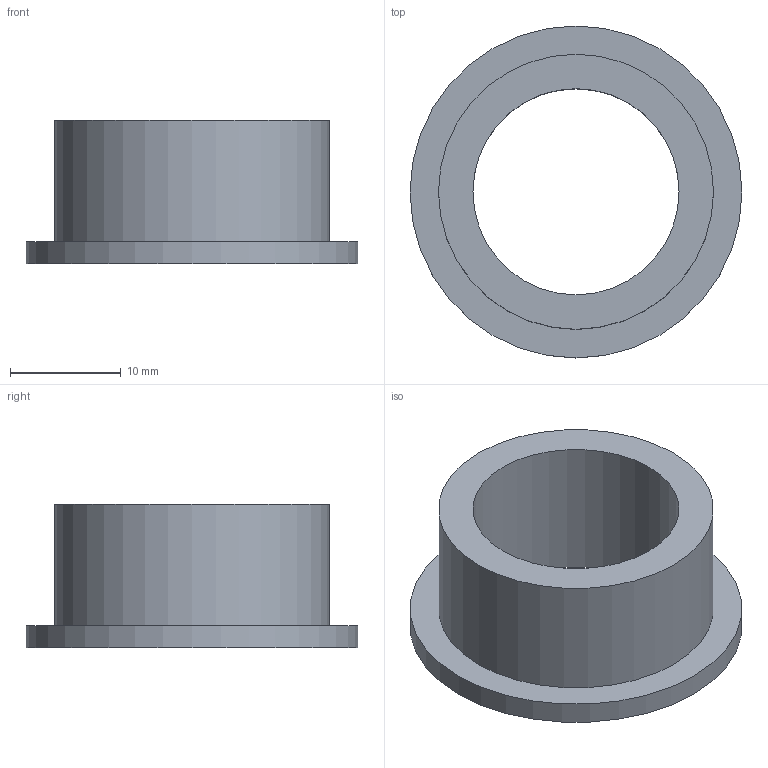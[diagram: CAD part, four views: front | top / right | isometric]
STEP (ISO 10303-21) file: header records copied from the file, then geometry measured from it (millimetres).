
FILE_DESCRIPTION (( 'STEP AP214' ), '1' );
FILE_NAME ('JF-20403-0010.STEP', '2018-04-18T15:25:30', ( '' ), ( '' ), 'SwSTEP 2.0', 'SolidWorks 2017', '' );
FILE_SCHEMA (( 'AUTOMOTIVE_DESIGN' ));
Length unit declared in the file: millimetre
Products named in the file (1): JF-20403-0010
Bounding box: 30 x 30 x 13 mm (x, y, z)
Volume: 3206.2 mm3; surface area: 2676.8 mm2
Topology: 1 solids, 1 shells, 9 faces, 14 edges, 9 vertices
Faces by surface type: plane 4, cylinder 3, cone 2
Full cylindrical faces by diameter (mm): 18.631 x1, 24.854 x1, 30 x1
Entity records: 222 total; most frequent: DIRECTION 38, CARTESIAN_POINT 28, AXIS2_PLACEMENT_3D 19, EDGE_LOOP 18, ORIENTED_EDGE 18, FACE_OUTER_BOUND 12, CIRCLE 9, EDGE_CURVE 9
